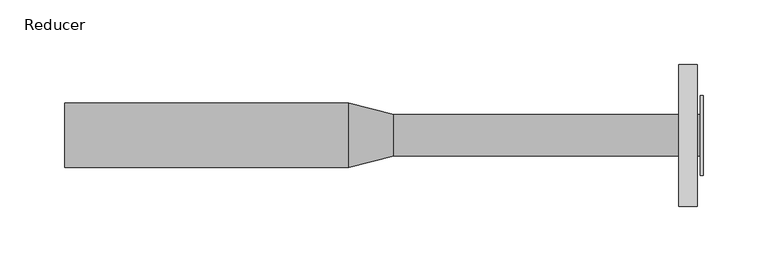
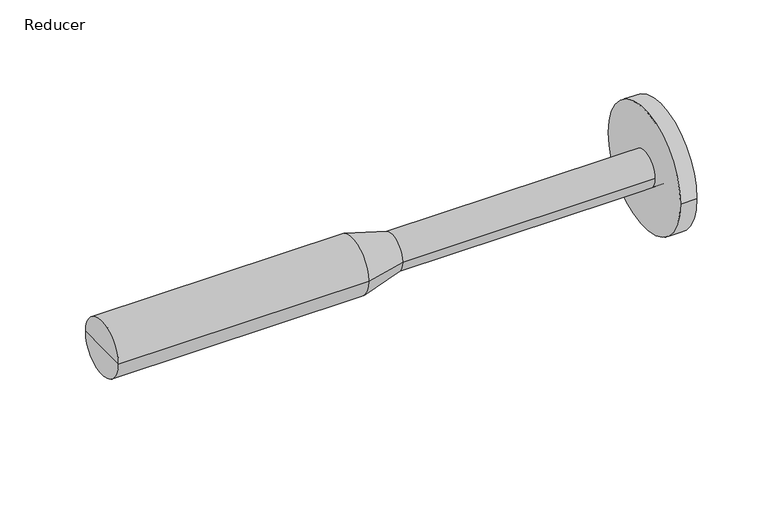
"""IFC4 building model written with IfcOpenShell, lengths in millimetres: pipe fitting geometry, Plumbing-Pipe-Fittings_Pexgol_Reducer : Reducer."""

from ifc_helpers import new_model, si_unit, point, frame, origin, origin_2d, place, context, project, spatial, polyline, circle_curve, trimmed, segment, composite_curve, outline, extrude, source, transform, mapped, element, save
from ifc_brep_helpers import plane_surface, cylinder_surface, revolved_surface, advanced_brep


def reducer_d87d33c5(model_context):
    return source(origin(), model_context, "Body", "SolidModel", [
        advanced_brep(
        [(255.1727273, -16.0, 0.0), (255.1727273, 16.0, 0.0), (255.1727273, 0.0, 0.0), (17.5, -16.0, 0.0), (17.5, 16.0, 0.0), (-17.5, -25.0, 0.0), (-17.5, 25.0, 0.0), (-237.5, -25.0, 0.0), (-237.5, 25.0, 0.0), (-237.5, 0.0, 0.0)],
        [
            (0, 1, circle_curve(frame((255.1727273, 0.0, 0.0), z_axis=(1.0, 0.0, 0.0), x_axis=(0.0, 1.0, 0.0)), 16.0)),
            (1, 2),
            (2, 0),
            (1, 0, circle_curve(frame((255.1727273, 0.0, 0.0), z_axis=(1.0, 0.0, 0.0), x_axis=(0.0, 1.0, 0.0)), 16.0)),
            (3, 4, circle_curve(frame((17.5, 0.0, 0.0), z_axis=(1.0, 0.0, 0.0), x_axis=(0.0, 1.0, 0.0)), 16.0)),
            (4, 1),
            (0, 3),
            (4, 3, circle_curve(frame((17.5, 0.0, 0.0), z_axis=(1.0, 0.0, 0.0), x_axis=(0.0, 1.0, 0.0)), 16.0)),
            (5, 6, circle_curve(frame((-17.5, 0.0, 0.0), z_axis=(1.0, 0.0, 0.0), x_axis=(0.0, 1.0, 0.0)), 25.0)),
            (6, 4),
            (3, 5),
            (6, 5, circle_curve(frame((-17.5, 0.0, 0.0), z_axis=(1.0, 0.0, 0.0), x_axis=(0.0, 1.0, 0.0)), 25.0)),
            (7, 8, circle_curve(frame((-237.5, 0.0, 0.0), z_axis=(1.0, 0.0, 0.0), x_axis=(0.0, 1.0, 0.0)), 25.0)),
            (8, 6),
            (5, 7),
            (8, 7, circle_curve(frame((-237.5, 0.0, 0.0), z_axis=(1.0, 0.0, 0.0), x_axis=(0.0, 1.0, 0.0)), 25.0)),
            (9, 8),
            (7, 9),
        ],
        [
            plane_surface(frame((255.1727273, 0.0, 0.0), z_axis=(1.0, 0.0, 0.0), x_axis=(0.0, 1.0, 0.0))),
            cylinder_surface(frame((2134.462963, 0.0, 0.0), z_axis=(-1.0, 0.0, 0.0), x_axis=(0.0, 1.0, 0.0)), 16.0),
            revolved_surface(polyline([(17.5, 16.0, 0.0), (-17.5, 25.0, 0.0)]), (2134.462963, 0.0, 0.0), (-1.0, 0.0, 0.0)),
            cylinder_surface(frame((2134.462963, 0.0, 0.0), z_axis=(-1.0, 0.0, 0.0), x_axis=(0.0, 1.0, 0.0)), 25.0),
            plane_surface(frame((-237.5, 0.0, 0.0), z_axis=(-1.0, 0.0, 0.0), x_axis=(0.0, 1.0, 0.0))),
        ],
        [
            (0, [[1, 2, 3]]),
            (0, [[4, -3, -2]]),
            (1, [[5, 6, -1, 7]]),
            (1, [[8, -7, -4, -6]]),
            (2, [[9, 10, -5, 11]]),
            (2, [[12, -11, -8, -10]]),
            (3, [[13, 14, -9, 15]]),
            (3, [[16, -15, -12, -14]]),
            (4, [[17, -13, 18]]),
            (4, [[-18, -16, -17]]),
        ],
    ),
        extrude(outline(composite_curve([segment(trimmed(circle_curve(origin_2d(), 55.0), [point((-55.0, 0.0))], [point((55.0, 0.0))], False, "CARTESIAN"), True, "CONTINUOUS"), segment(trimmed(circle_curve(origin_2d(), 55.0), [point((55.0, 0.0))], [point((-55.0, 0.0))], False, "CARTESIAN"), True, "CONTINUOUS")], self_intersect=False)), frame((238.5454545, 0.0, 0.0), z_axis=(1.0, 0.0, 0.0), x_axis=(0.0, 1.0, 0.0)), (0.0, 0.0, 1.0), 14.3),
        extrude(outline(composite_curve([segment(trimmed(circle_curve(origin_2d(), 31.0), [point((-31.0, 0.0))], [point((31.0, 0.0))], False, "CARTESIAN"), True, "CONTINUOUS"), segment(trimmed(circle_curve(origin_2d(), 31.0), [point((31.0, 0.0))], [point((-31.0, 0.0))], False, "CARTESIAN"), True, "CONTINUOUS")], self_intersect=False)), frame((255.1727273, 0.0, 0.0), z_axis=(1.0, 0.0, 0.0), x_axis=(0.0, 1.0, 0.0)), (0.0, 0.0, 1.0), 2.3272727),
    ])


if __name__ == "__main__":
    model = new_model("IFC4")
    model_context = context("Model", 3, world=origin())
    ifc_project = project(units=[si_unit("LENGTHUNIT", "METRE", prefix="MILLI")], contexts=[model_context])
    site = spatial("IfcSite", under=ifc_project)
    building = spatial("IfcBuilding", under=site)
    placement = place(None, origin())
    reducer_shape = reducer_d87d33c5(model_context)
    element("IfcPipeFitting", 1, ObjectType="Plumbing-Pipe-Fittings_Pexgol_Reducer : Reducer", at=placement, inside=building, context=model_context, shape_type="MappedRepresentation", body=[
        mapped(reducer_shape, transform((0.0, 0.0, 0.0), x_axis=(1.0, 0.0, 0.0), y_axis=(0.0, 1.0, 0.0), z_axis=(0.0, 0.0, 1.0))),
    ])
    save(model, "model.ifc")
